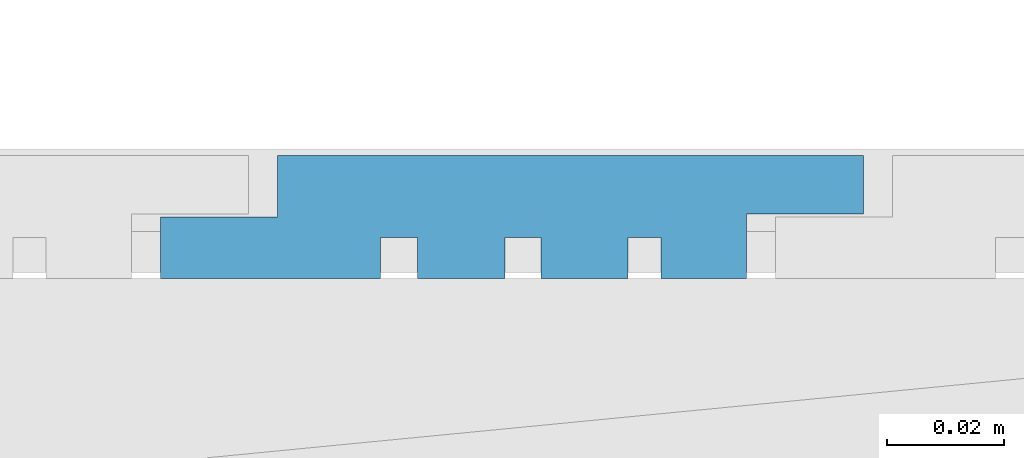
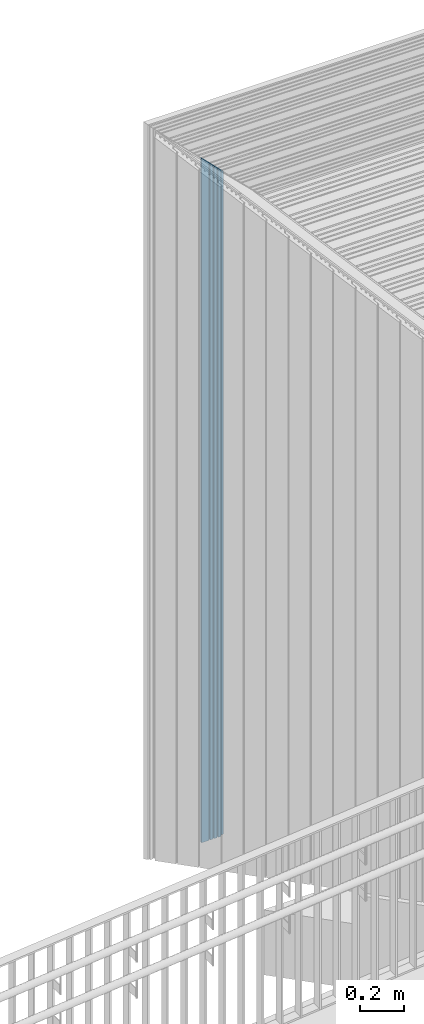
# One storey, part 138 of 418: 1 building element part, 1 element without a shape of its own.
"""IFC2X3 building model written with IfcOpenShell, lengths in millimetres."""

from ifc_helpers import new_model, entity, si_unit, converted_unit, derived_unit, money_unit, direction, frame, origin_with_axes, place, context, subcontext, project, spatial, polyline, outline, extrude, boolean, faceted_brep, material, type_object, element, aggregate, save


model = new_model("IFC2X3")

# Units and contexts
model_context = context("Model", 3, precision=0.01, world=origin_with_axes(), true_north=direction((0.0, 1.0)))
body_context = subcontext(model_context, "Body", "Model", "MODEL_VIEW")
ifc_project = project(units=[si_unit("LENGTHUNIT", "METRE", prefix="MILLI"), si_unit("AREAUNIT", "SQUARE_METRE"), si_unit("VOLUMEUNIT", "CUBIC_METRE"), converted_unit("PLANEANGLEUNIT", "DEGREE", entity("IfcPlaneAngleMeasure", 0.0174532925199), si_unit("PLANEANGLEUNIT", "RADIAN"), dimensions=[0, 0, 0, 0, 0, 0, 0]), si_unit("SOLIDANGLEUNIT", "STERADIAN"), money_unit("EUR"), converted_unit("TIMEUNIT", "Year", entity("IfcTimeMeasure", 31556926.0), si_unit("TIMEUNIT", "SECOND"), dimensions=[0, 0, 1, 0, 0, 0, 0]), si_unit("MASSUNIT", "GRAM", prefix="KILO"), si_unit("THERMODYNAMICTEMPERATUREUNIT", "DEGREE_CELSIUS"), si_unit("LUMINOUSINTENSITYUNIT", "LUMEN"), si_unit("ENERGYUNIT", "JOULE", prefix="MEGA"), derived_unit("THERMALCONDUCTANCEUNIT", [(si_unit("POWERUNIT", "WATT"), 1), (si_unit("LENGTHUNIT", "METRE"), -1), (si_unit("THERMODYNAMICTEMPERATUREUNIT", "KELVIN"), -1)]), derived_unit("SPECIFICHEATCAPACITYUNIT", [(si_unit("ENERGYUNIT", "JOULE"), 1), (si_unit("MASSUNIT", "GRAM", prefix="KILO"), -1), (si_unit("THERMODYNAMICTEMPERATUREUNIT", "KELVIN"), -1)]), derived_unit("MASSDENSITYUNIT", [(si_unit("MASSUNIT", "GRAM", prefix="KILO"), 1), (si_unit("VOLUMEUNIT", "CUBIC_METRE"), -1)])], contexts=[model_context])

# Site, building, storey
site_placement = place(None, origin_with_axes())
site = spatial("IfcSite", under=ifc_project, at=site_placement, Name="Paldiski mnt 245/1, Tallinn, Harjumaa", CompositionType="COMPLEX")
building_placement = place(site_placement, origin_with_axes())
building = spatial("IfcBuilding", under=site, at=building_placement, Name="RKAS Hoone üldnimetus (kasutust iseloomustav) -> IFC Project Manager -> SOLIBRI", CompositionType="ELEMENT")
storey_placement = place(building_placement, origin_with_axes())
storey = spatial("IfcBuildingStorey", under=building, at=storey_placement, Name="Esimene korrus", CompositionType="ELEMENT", Elevation=0.0)

# Proxy, building element part
building_element_proxy_type = type_object("IfcBuildingElementProxyType", Name="Laudis esiprofiil_01 21 x 622", PredefinedType="NOTDEFINED")
proxy_placement = place(storey_placement, frame((-54498.5561962, 39788.252735, 0.0), z_axis=(0.0, 0.0, 1.0), x_axis=(0.0, 1.0, 0.0)))
proxy = element("IfcBuildingElementProxy", 1, at=proxy_placement, inside=storey, type_object=building_element_proxy_type, Name="Varikatus")
ifc_material = material(Name="Laudis 5072 Honka 45 horisontaalne raastas")
building_element_part_placement = place(proxy_placement, origin_with_axes())
building_element_part = element("IfcBuildingElementPart", 2, at=building_element_part_placement, material=ifc_material, Name="Laudis 5072 Honka 45 horisontaalne raastas", context=body_context, shape_type="CSG", body=[
    boolean("DIFFERENCE", boolean("DIFFERENCE", boolean("DIFFERENCE", boolean("DIFFERENCE", boolean("DIFFERENCE", boolean("DIFFERENCE", extrude(outline(polyline([(3.20348192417e-08, -310.971430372), (-10.5000010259, -310.971430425), (-10.5000005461, -290.971429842), (-20.9999998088, -290.971430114), (-21.0000010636, -328.497524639), (-14.0000005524, -328.497525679), (-14.0000003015, -334.860022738), (-20.99999981, -334.860022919), (-20.9999998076, -349.79914009), (-14.0000002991, -349.799139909), (-14.0000007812, -355.926080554), (-21.0000002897, -355.926080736), (-21.0000013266, -370.754573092), (-14.0000008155, -370.754574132), (-14.0000015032, -376.395242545), (-21.0000010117, -376.395242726), (-21.0000007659, -390.971429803), (-10.000001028, -390.971430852), (-10.0000002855, -410.971430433), (-7.63172636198e-07, -410.971430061), (3.20348192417e-08, -310.971430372)])), origin_with_axes(), (0.0, 0.0, 1.0), 4086.15997799), faceted_brep([(-10.0000002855, -515.971430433, 3569.02857075), (-7.63172636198e-07, -515.971430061, 3569.02857112), (-7.63172636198e-07, -515.971430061, 4086.15997799), (-10.0000002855, -515.971430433, 4086.15997799), (3.20312665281e-08, -415.971430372, 3669.02857081), (-10.000001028, -495.971430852, 3589.02857033), (-21.0000007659, -495.971429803, 3589.02857138), (-21.0000010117, -481.395242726, 3603.60475846), (-14.0000015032, -481.395242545, 3603.60475864), (-14.0000008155, -475.754574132, 3609.24542705), (-21.0000013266, -475.754573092, 3609.24542809), (-21.0000002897, -460.926080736, 3624.07392045), (-14.0000007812, -460.926080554, 3624.07392063), (-14.0000002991, -454.799139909, 3630.20086128), (-20.9999998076, -454.79914009, 3630.20086109), (-20.99999981, -439.860022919, 3645.13997827), (-14.0000003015, -439.860022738, 3645.13997845), (-14.0000005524, -433.497525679, 3651.50247551), (-21.0000010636, -433.497524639, 3651.50247655), (-20.9999998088, -395.971430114, 3689.02857107), (-10.5000005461, -395.971429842, 3689.02857134), (-10.5000010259, -415.971430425, 3669.02857076), (3.20312665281e-08, -415.971430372, 4086.15997799), (-10.5000010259, -415.971430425, 4086.15997799), (-10.5000005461, -395.971429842, 4086.15997799), (-20.9999998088, -395.971430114, 4086.15997799), (-21.0000010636, -433.497524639, 4086.15997799), (-14.0000005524, -433.497525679, 4086.15997799), (-14.0000003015, -439.860022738, 4086.15997799), (-20.99999981, -439.860022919, 4086.15997799), (-20.9999998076, -454.79914009, 4086.15997799), (-14.0000002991, -454.799139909, 4086.15997799), (-14.0000007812, -460.926080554, 4086.15997799), (-21.0000002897, -460.926080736, 4086.15997799), (-21.0000013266, -475.754573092, 4086.15997799), (-14.0000008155, -475.754574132, 4086.15997799), (-14.0000015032, -481.395242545, 4086.15997799), (-21.0000010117, -481.395242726, 4086.15997799), (-21.0000007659, -495.971429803, 4086.15997799), (-10.000001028, -495.971430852, 4086.15997799)], [[[0, 1, 2, 3]], [[4, 1, 0, 5, 6, 7, 8, 9, 10, 11, 12, 13, 14, 15, 16, 17, 18, 19, 20, 21]], [[1, 4, 22, 2]], [[2, 22, 23, 24, 25, 26, 27, 28, 29, 30, 31, 32, 33, 34, 35, 36, 37, 38, 39, 3]], [[5, 0, 3, 39]], [[6, 5, 39, 38]], [[7, 6, 38, 37]], [[8, 7, 37, 36]], [[9, 8, 36, 35]], [[10, 9, 35, 34]], [[11, 10, 34, 33]], [[12, 11, 33, 32]], [[13, 12, 32, 31]], [[14, 13, 31, 30]], [[15, 14, 30, 29]], [[16, 15, 29, 28]], [[17, 16, 28, 27]], [[18, 17, 27, 26]], [[19, 18, 26, 25]], [[20, 19, 25, 24]], [[21, 20, 24, 23]], [[4, 21, 23, 22]]])), faceted_brep([(-10.0000002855, -620.971430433, 3464.02857075), (-7.63172636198e-07, -620.971430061, 3464.02857112), (-7.63172636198e-07, -620.971430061, 4086.15997799), (-10.0000002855, -620.971430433, 4086.15997799), (3.20312665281e-08, -520.971430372, 3564.02857081), (-10.000001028, -600.971430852, 3484.02857033), (-21.0000007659, -600.971429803, 3484.02857138), (-21.0000010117, -586.395242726, 3498.60475846), (-14.0000015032, -586.395242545, 3498.60475864), (-14.0000008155, -580.754574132, 3504.24542705), (-21.0000013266, -580.754573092, 3504.24542809), (-21.0000002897, -565.926080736, 3519.07392045), (-14.0000007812, -565.926080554, 3519.07392063), (-14.0000002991, -559.799139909, 3525.20086128), (-20.9999998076, -559.79914009, 3525.20086109), (-20.99999981, -544.860022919, 3540.13997827), (-14.0000003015, -544.860022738, 3540.13997845), (-14.0000005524, -538.497525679, 3546.50247551), (-21.0000010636, -538.497524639, 3546.50247655), (-20.9999998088, -500.971430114, 3584.02857107), (-10.5000005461, -500.971429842, 3584.02857134), (-10.5000010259, -520.971430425, 3564.02857076), (3.20312665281e-08, -520.971430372, 4086.15997799), (-10.5000010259, -520.971430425, 4086.15997799), (-10.5000005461, -500.971429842, 4086.15997799), (-20.9999998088, -500.971430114, 4086.15997799), (-21.0000010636, -538.497524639, 4086.15997799), (-14.0000005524, -538.497525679, 4086.15997799), (-14.0000003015, -544.860022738, 4086.15997799), (-20.99999981, -544.860022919, 4086.15997799), (-20.9999998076, -559.79914009, 4086.15997799), (-14.0000002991, -559.799139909, 4086.15997799), (-14.0000007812, -565.926080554, 4086.15997799), (-21.0000002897, -565.926080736, 4086.15997799), (-21.0000013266, -580.754573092, 4086.15997799), (-14.0000008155, -580.754574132, 4086.15997799), (-14.0000015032, -586.395242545, 4086.15997799), (-21.0000010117, -586.395242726, 4086.15997799), (-21.0000007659, -600.971429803, 4086.15997799), (-10.000001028, -600.971430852, 4086.15997799)], [[[0, 1, 2, 3]], [[4, 1, 0, 5, 6, 7, 8, 9, 10, 11, 12, 13, 14, 15, 16, 17, 18, 19, 20, 21]], [[1, 4, 22, 2]], [[2, 22, 23, 24, 25, 26, 27, 28, 29, 30, 31, 32, 33, 34, 35, 36, 37, 38, 39, 3]], [[5, 0, 3, 39]], [[6, 5, 39, 38]], [[7, 6, 38, 37]], [[8, 7, 37, 36]], [[9, 8, 36, 35]], [[10, 9, 35, 34]], [[11, 10, 34, 33]], [[12, 11, 33, 32]], [[13, 12, 32, 31]], [[14, 13, 31, 30]], [[15, 14, 30, 29]], [[16, 15, 29, 28]], [[17, 16, 28, 27]], [[18, 17, 27, 26]], [[19, 18, 26, 25]], [[20, 19, 25, 24]], [[21, 20, 24, 23]], [[4, 21, 23, 22]]])), faceted_brep([(-10.0000002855, -305.971430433, 3779.02857075), (-7.63179741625e-07, -305.971430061, 3779.02857112), (-7.63179741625e-07, -305.971430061, 4086.15997799), (-10.0000002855, -305.971430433, 4086.15997799), (3.20312665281e-08, -205.971430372, 3879.02857081), (-10.000001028, -285.971430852, 3799.02857033), (-21.0000007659, -285.971429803, 3799.02857138), (-21.0000010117, -271.395242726, 3813.60475846), (-14.0000015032, -271.395242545, 3813.60475864), (-14.0000008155, -265.754574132, 3819.24542705), (-21.0000013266, -265.754573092, 3819.24542809), (-21.0000002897, -250.926080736, 3834.07392045), (-14.0000007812, -250.926080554, 3834.07392063), (-14.0000002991, -244.799139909, 3840.20086128), (-20.9999998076, -244.79914009, 3840.20086109), (-20.99999981, -229.860022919, 3855.13997827), (-14.0000003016, -229.860022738, 3855.13997845), (-14.0000005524, -223.497525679, 3861.50247551), (-21.0000010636, -223.497524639, 3861.50247655), (-20.9999998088, -185.971430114, 3899.02857107), (-10.5000005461, -185.971429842, 3899.02857134), (-10.5000010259, -205.971430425, 3879.02857076), (3.20312665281e-08, -205.971430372, 4086.15997799), (-10.5000010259, -205.971430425, 4086.15997799), (-10.5000005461, -185.971429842, 4086.15997799), (-20.9999998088, -185.971430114, 4086.15997799), (-21.0000010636, -223.497524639, 4086.15997799), (-14.0000005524, -223.497525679, 4086.15997799), (-14.0000003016, -229.860022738, 4086.15997799), (-20.99999981, -229.860022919, 4086.15997799), (-20.9999998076, -244.79914009, 4086.15997799), (-14.0000002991, -244.799139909, 4086.15997799), (-14.0000007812, -250.926080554, 4086.15997799), (-21.0000002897, -250.926080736, 4086.15997799), (-21.0000013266, -265.754573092, 4086.15997799), (-14.0000008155, -265.754574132, 4086.15997799), (-14.0000015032, -271.395242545, 4086.15997799), (-21.0000010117, -271.395242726, 4086.15997799), (-21.0000007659, -285.971429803, 4086.15997799), (-10.000001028, -285.971430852, 4086.15997799)], [[[0, 1, 2, 3]], [[4, 1, 0, 5, 6, 7, 8, 9, 10, 11, 12, 13, 14, 15, 16, 17, 18, 19, 20, 21]], [[1, 4, 22, 2]], [[2, 22, 23, 24, 25, 26, 27, 28, 29, 30, 31, 32, 33, 34, 35, 36, 37, 38, 39, 3]], [[5, 0, 3, 39]], [[6, 5, 39, 38]], [[7, 6, 38, 37]], [[8, 7, 37, 36]], [[9, 8, 36, 35]], [[10, 9, 35, 34]], [[11, 10, 34, 33]], [[12, 11, 33, 32]], [[13, 12, 32, 31]], [[14, 13, 31, 30]], [[15, 14, 30, 29]], [[16, 15, 29, 28]], [[17, 16, 28, 27]], [[18, 17, 27, 26]], [[19, 18, 26, 25]], [[20, 19, 25, 24]], [[21, 20, 24, 23]], [[4, 21, 23, 22]]])), faceted_brep([(-10.0000002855, -410.971430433, 3674.02857075), (-7.63172636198e-07, -410.971430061, 3674.02857112), (-7.63172636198e-07, -410.971430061, 4086.15997799), (-10.0000002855, -410.971430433, 4086.15997799), (3.20312665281e-08, -310.971430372, 3774.02857081), (-10.000001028, -390.971430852, 3694.02857033), (-21.0000007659, -390.971429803, 3694.02857138), (-21.0000010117, -376.395242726, 3708.60475846), (-14.0000015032, -376.395242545, 3708.60475864), (-14.0000008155, -370.754574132, 3714.24542705), (-21.0000013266, -370.754573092, 3714.24542809), (-21.0000002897, -355.926080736, 3729.07392045), (-14.0000007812, -355.926080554, 3729.07392063), (-14.0000002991, -349.799139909, 3735.20086128), (-20.9999998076, -349.79914009, 3735.20086109), (-20.99999981, -334.860022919, 3750.13997827), (-14.0000003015, -334.860022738, 3750.13997845), (-14.0000005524, -328.497525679, 3756.50247551), (-21.0000010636, -328.497524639, 3756.50247655), (-20.9999998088, -290.971430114, 3794.02857107), (-10.5000005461, -290.971429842, 3794.02857134), (-10.5000010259, -310.971430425, 3774.02857076), (3.20312665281e-08, -310.971430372, 4086.15997799), (-10.5000010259, -310.971430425, 4086.15997799), (-10.5000005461, -290.971429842, 4086.15997799), (-20.9999998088, -290.971430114, 4086.15997799), (-21.0000010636, -328.497524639, 4086.15997799), (-14.0000005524, -328.497525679, 4086.15997799), (-14.0000003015, -334.860022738, 4086.15997799), (-20.99999981, -334.860022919, 4086.15997799), (-20.9999998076, -349.79914009, 4086.15997799), (-14.0000002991, -349.799139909, 4086.15997799), (-14.0000007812, -355.926080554, 4086.15997799), (-21.0000002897, -355.926080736, 4086.15997799), (-21.0000013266, -370.754573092, 4086.15997799), (-14.0000008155, -370.754574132, 4086.15997799), (-14.0000015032, -376.395242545, 4086.15997799), (-21.0000010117, -376.395242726, 4086.15997799), (-21.0000007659, -390.971429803, 4086.15997799), (-10.000001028, -390.971430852, 4086.15997799)], [[[0, 1, 2, 3]], [[4, 1, 0, 5, 6, 7, 8, 9, 10, 11, 12, 13, 14, 15, 16, 17, 18, 19, 20, 21]], [[1, 4, 22, 2]], [[2, 22, 23, 24, 25, 26, 27, 28, 29, 30, 31, 32, 33, 34, 35, 36, 37, 38, 39, 3]], [[5, 0, 3, 39]], [[6, 5, 39, 38]], [[7, 6, 38, 37]], [[8, 7, 37, 36]], [[9, 8, 36, 35]], [[10, 9, 35, 34]], [[11, 10, 34, 33]], [[12, 11, 33, 32]], [[13, 12, 32, 31]], [[14, 13, 31, 30]], [[15, 14, 30, 29]], [[16, 15, 29, 28]], [[17, 16, 28, 27]], [[18, 17, 27, 26]], [[19, 18, 26, 25]], [[20, 19, 25, 24]], [[21, 20, 24, 23]], [[4, 21, 23, 22]]])), faceted_brep([(-10.0000000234, -95.9714304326, 3989.02857075), (-1.4387921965e-06, -95.9714304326, 3989.02857075), (-1.4387921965e-06, -95.9714304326, 4086.15997799), (-10.0000000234, -95.9714304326, 4086.15997799), (8.28492829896e-09, 1.13997680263, 4086.13997799), (-10.0000014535, -75.9714304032, 4009.02857078), (-21.0000013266, -75.9714304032, 4009.02857078), (-21.0000013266, -61.3952431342, 4023.60475805), (-14.0000008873, -61.3952431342, 4023.60475805), (-14.0000008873, -55.7545748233, 4029.24542636), (-21.0000013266, -55.7545733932, 4029.24542779), (-20.9999998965, -40.9260801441, 4044.07392104), (-14.0000008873, -40.9260801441, 4044.07392104), (-14.0000008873, -34.7991393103, 4050.20086187), (-20.9999998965, -34.7991407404, 4050.20086044), (-20.9999998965, -19.8600231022, 4065.13997808), (-14.0000008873, -19.8600231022, 4065.13997808), (-14.0000008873, -12.860024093, 4072.13997709), (8.28492829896e-09, 1.13997680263, 4086.15997799), (-20.9999998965, -40.9260801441, 4086.15997799), (-21.0000013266, -55.7545733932, 4086.15997799), (-14.0000008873, -55.7545748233, 4086.15997799), (-14.0000008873, -61.3952431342, 4086.15997799), (-21.0000013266, -61.3952431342, 4086.15997799), (-21.0000013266, -75.9714304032, 4086.15997799), (-10.0000014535, -75.9714304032, 4086.15997799), (-14.0000008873, -12.860024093, 4086.15997799), (-14.0000008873, -19.8600231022, 4086.15997799), (-20.9999998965, -19.8600231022, 4086.15997799), (-20.9999998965, -34.7991407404, 4086.15997799), (-14.0000008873, -34.7991393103, 4086.15997799), (-14.0000008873, -40.9260801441, 4086.15997799)], [[[0, 1, 2, 3]], [[4, 1, 0, 5, 6, 7, 8, 9, 10, 11, 12, 13, 14, 15, 16, 17]], [[1, 4, 18, 2]], [[19, 20, 21, 22, 23, 24, 25, 3, 2, 18, 26, 27, 28, 29, 30, 31]], [[5, 0, 3, 25]], [[6, 5, 25, 24]], [[7, 6, 24, 23]], [[8, 7, 23, 22]], [[9, 8, 22, 21]], [[10, 9, 21, 20]], [[11, 10, 20, 19]], [[12, 11, 19, 31]], [[13, 12, 31, 30]], [[14, 13, 30, 29]], [[15, 14, 29, 28]], [[16, 15, 28, 27]], [[17, 16, 27, 26]], [[4, 17, 26, 18]]])), faceted_brep([(-10.0000002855, -200.971430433, 3884.02857075), (-7.63179741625e-07, -200.971430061, 3884.02857112), (-7.63179741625e-07, -200.971430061, 4086.15997799), (-10.0000002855, -200.971430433, 4086.15997799), (3.20312665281e-08, -100.971430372, 3984.02857081), (-10.000001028, -180.971430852, 3904.02857033), (-21.0000007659, -180.971429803, 3904.02857138), (-21.0000010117, -166.395242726, 3918.60475846), (-14.0000015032, -166.395242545, 3918.60475864), (-14.0000008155, -160.754574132, 3924.24542705), (-21.0000013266, -160.754573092, 3924.24542809), (-21.0000002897, -145.926080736, 3939.07392045), (-14.0000007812, -145.926080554, 3939.07392063), (-14.0000002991, -139.799139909, 3945.20086128), (-20.9999998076, -139.79914009, 3945.20086109), (-20.99999981, -124.860022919, 3960.13997827), (-14.0000003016, -124.860022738, 3960.13997845), (-14.0000005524, -118.497525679, 3966.50247551), (-21.0000010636, -118.497524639, 3966.50247655), (-20.9999998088, -80.9714301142, 4004.02857107), (-10.5000005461, -80.9714298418, 4004.02857134), (-10.5000010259, -100.971430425, 3984.02857076), (3.20312665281e-08, -100.971430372, 4086.15997799), (-10.5000010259, -100.971430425, 4086.15997799), (-10.5000005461, -80.9714298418, 4086.15997799), (-20.9999998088, -80.9714301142, 4086.15997799), (-21.0000010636, -118.497524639, 4086.15997799), (-14.0000005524, -118.497525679, 4086.15997799), (-14.0000003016, -124.860022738, 4086.15997799), (-20.99999981, -124.860022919, 4086.15997799), (-20.9999998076, -139.79914009, 4086.15997799), (-14.0000002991, -139.799139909, 4086.15997799), (-14.0000007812, -145.926080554, 4086.15997799), (-21.0000002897, -145.926080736, 4086.15997799), (-21.0000013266, -160.754573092, 4086.15997799), (-14.0000008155, -160.754574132, 4086.15997799), (-14.0000015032, -166.395242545, 4086.15997799), (-21.0000010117, -166.395242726, 4086.15997799), (-21.0000007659, -180.971429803, 4086.15997799), (-10.000001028, -180.971430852, 4086.15997799)], [[[0, 1, 2, 3]], [[4, 1, 0, 5, 6, 7, 8, 9, 10, 11, 12, 13, 14, 15, 16, 17, 18, 19, 20, 21]], [[1, 4, 22, 2]], [[2, 22, 23, 24, 25, 26, 27, 28, 29, 30, 31, 32, 33, 34, 35, 36, 37, 38, 39, 3]], [[5, 0, 3, 39]], [[6, 5, 39, 38]], [[7, 6, 38, 37]], [[8, 7, 37, 36]], [[9, 8, 36, 35]], [[10, 9, 35, 34]], [[11, 10, 34, 33]], [[12, 11, 33, 32]], [[13, 12, 32, 31]], [[14, 13, 31, 30]], [[15, 14, 30, 29]], [[16, 15, 29, 28]], [[17, 16, 28, 27]], [[18, 17, 27, 26]], [[19, 18, 26, 25]], [[20, 19, 25, 24]], [[21, 20, 24, 23]], [[4, 21, 23, 22]]])),
])
aggregate(proxy, [building_element_part])

save(model, "model.ifc")
